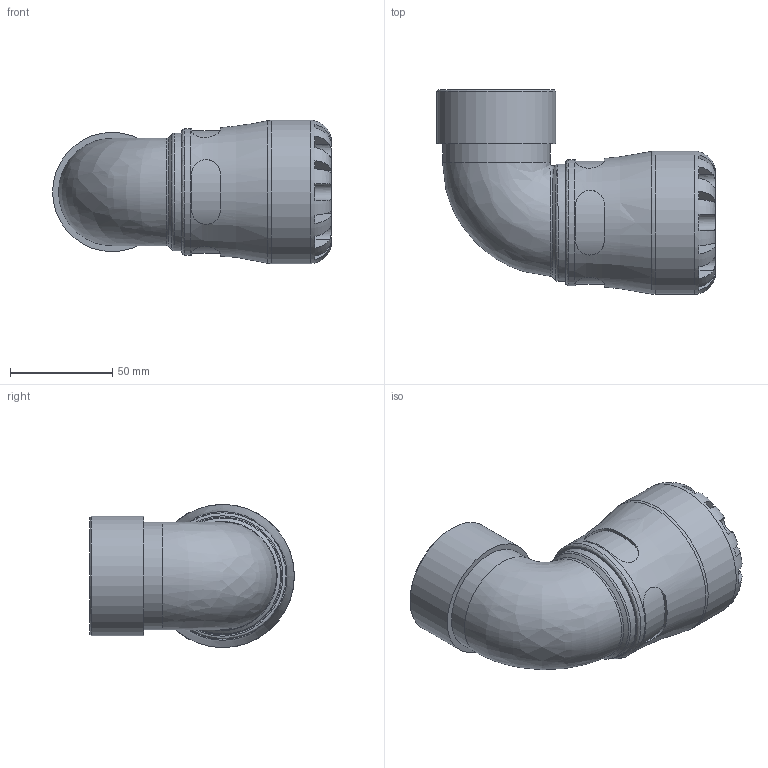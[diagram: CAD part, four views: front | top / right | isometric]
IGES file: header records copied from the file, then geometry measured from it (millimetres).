
Global section: file name: 101500040015_191500040015.ipt; native system: Autodesk Inventor 2015; preprocessor: unknown; author: KIM; date: 20170730.115225; units: millimetre
Bounding box: 136.15 x 100 x 70 mm (x, y, z)
Volume: 237858.6 mm3; surface area: 56618.3 mm2
Topology: 1 solids, 1 shells, 110 faces, 278 edges, 177 vertices
Faces by surface type: plane 62, revolution 26, cylinder 17, bspline 4, cone 1
Full cylindrical faces by diameter (mm): 52.469 x1, 57.4 x1, 58.298 x1, 61.6 x1, 70 x1
